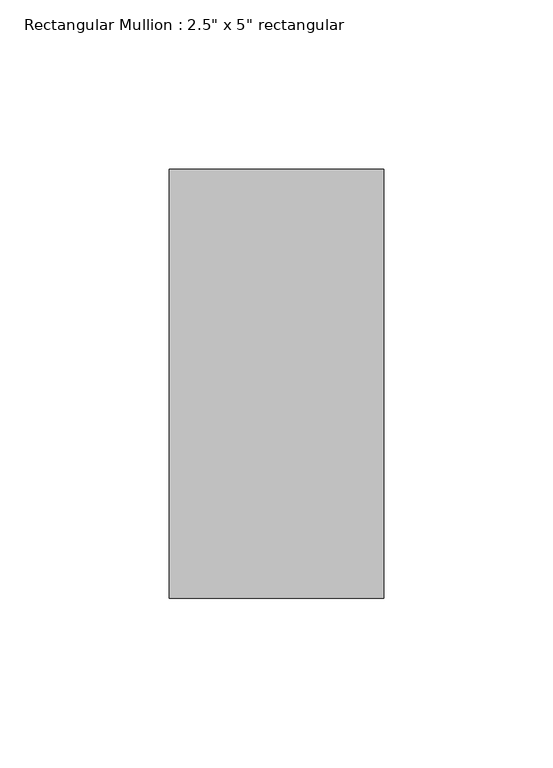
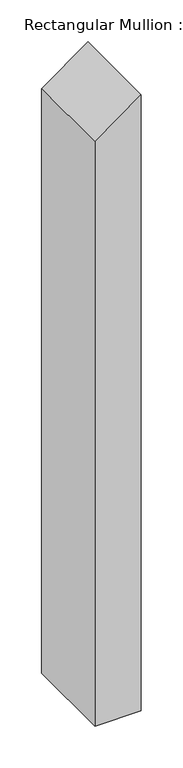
"""IFC4 building model written with IfcOpenShell, lengths in millimetres: member geometry."""

from ifc_helpers import new_model, si_unit, frame, origin, place, context, project, spatial, polyline, outline, extrude, source, transform, mapped, element, save


def member_fbc627c7(model_context):
    return source(origin(), model_context, "Body", "SweptSolid", [
        extrude(outline(polyline([(0.0, 0.0), (-45.7682105, -63.5), (-895.5172211, -63.5), (-895.5172211, 0.0), (0.0, 0.0)])), frame((0.0, -63.5, 0.0), z_axis=(0.0, 1.0, 0.0), x_axis=(0.0, 0.0, 1.0)), (0.0, 0.0, 1.0), 127.0),
    ])


if __name__ == "__main__":
    model = new_model("IFC4")
    model_context = context("Model", 3, world=origin())
    ifc_project = project(units=[si_unit("LENGTHUNIT", "METRE", prefix="MILLI")], contexts=[model_context])
    site = spatial("IfcSite", under=ifc_project)
    building = spatial("IfcBuilding", under=site)
    placement = place(None, origin())
    member_shape = member_fbc627c7(model_context)
    element("IfcMember", 1, ObjectType="Rectangular Mullion : 2.5\" x 5\" rectangular", at=placement, inside=building, context=model_context, shape_type="MappedRepresentation", body=[
        mapped(member_shape, transform((0.0, 0.0, 0.0), x_axis=(1.0, 0.0, 0.0), y_axis=(0.0, 1.0, 0.0), z_axis=(0.0, 0.0, 1.0))),
    ])
    save(model, "model.ifc")
